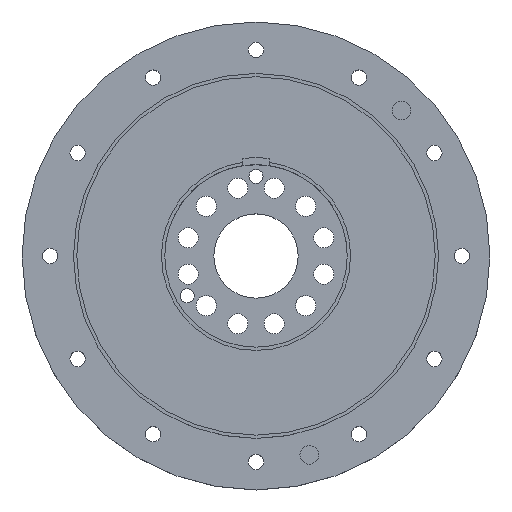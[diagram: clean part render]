
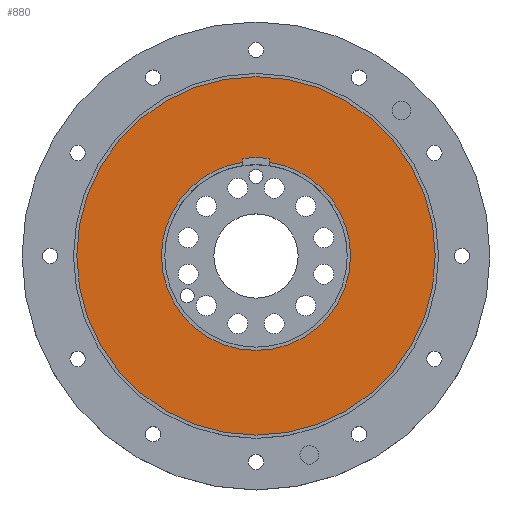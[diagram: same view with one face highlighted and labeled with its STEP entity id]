
A CAD part, top view. The second image highlights one B-rep face of the part: STEP entity #880.
In plain terms, the highlighted planar face has unit normal (0, 0, 1).
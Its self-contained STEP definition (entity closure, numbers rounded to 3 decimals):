
#13 = ORIENTED_EDGE ( 'NONE', *, *, #1020, .T. ) ;
#54 = LINE ( 'NONE', #3075, #760 ) ;
#62 = VERTEX_POINT ( 'NONE', #1428 ) ;
#71 = EDGE_CURVE ( 'NONE', #2795, #1116, #259, .T. ) ;
#82 = VECTOR ( 'NONE', #3006, 1000. ) ;
#83 = ORIENTED_EDGE ( 'NONE', *, *, #1375, .F. ) ;
#127 = DIRECTION ( 'NONE',  ( 0., 0., 1. ) ) ;
#134 = AXIS2_PLACEMENT_3D ( 'NONE', #321, #1181, #2298 ) ;
#209 = CARTESIAN_POINT ( 'NONE',  ( 38.3, 0., 15.3 ) ) ;
#225 = CARTESIAN_POINT ( 'NONE',  ( -2.8, 20.005, 15.3 ) ) ;
#259 = CIRCLE ( 'NONE', #1455, 38.3 ) ;
#321 = CARTESIAN_POINT ( 'NONE',  ( 0., 0., 15.3 ) ) ;
#462 = ORIENTED_EDGE ( 'NONE', *, *, #3199, .F. ) ;
#480 = CIRCLE ( 'NONE', #2143, 20.2 ) ;
#575 = DIRECTION ( 'NONE',  ( 0., 0., 1. ) ) ;
#590 = CARTESIAN_POINT ( 'NONE',  ( -2.8, 20.812, 15.3 ) ) ;
#675 = EDGE_CURVE ( 'NONE', #62, #3171, #2425, .T. ) ;
#707 = VERTEX_POINT ( 'NONE', #225 ) ;
#760 = VECTOR ( 'NONE', #1174, 1000. ) ;
#860 = VERTEX_POINT ( 'NONE', #590 ) ;
#880 = ADVANCED_FACE ( 'NONE', ( #1720, #2863 ), #1747, .T. ) ;
#1020 = EDGE_CURVE ( 'NONE', #1116, #2795, #3508, .T. ) ;
#1032 = AXIS2_PLACEMENT_3D ( 'NONE', #1401, #575, #1147 ) ;
#1035 = CARTESIAN_POINT ( 'NONE',  ( 0., 0., 15.3 ) ) ;
#1051 = ORIENTED_EDGE ( 'NONE', *, *, #2122, .T. ) ;
#1109 = ORIENTED_EDGE ( 'NONE', *, *, #675, .F. ) ;
#1116 = VERTEX_POINT ( 'NONE', #1480 ) ;
#1147 = DIRECTION ( 'NONE',  ( 1., 0., 0. ) ) ;
#1156 = AXIS2_PLACEMENT_3D ( 'NONE', #2290, #2312, #3425 ) ;
#1174 = DIRECTION ( 'NONE',  ( 0., 1., 0. ) ) ;
#1181 = DIRECTION ( 'NONE',  ( 0., 0., 1. ) ) ;
#1204 = EDGE_CURVE ( 'NONE', #3171, #1732, #480, .T. ) ;
#1375 = EDGE_CURVE ( 'NONE', #1732, #1780, #2667, .T. ) ;
#1398 = ORIENTED_EDGE ( 'NONE', *, *, #1660, .F. ) ;
#1401 = CARTESIAN_POINT ( 'NONE',  ( 0., 0., 15.3 ) ) ;
#1428 = CARTESIAN_POINT ( 'NONE',  ( -20.2, 0., 15.3 ) ) ;
#1455 = AXIS2_PLACEMENT_3D ( 'NONE', #3151, #3482, #2612 ) ;
#1480 = CARTESIAN_POINT ( 'NONE',  ( -38.3, 0., 15.3 ) ) ;
#1660 = EDGE_CURVE ( 'NONE', #707, #62, #2250, .T. ) ;
#1720 = FACE_OUTER_BOUND ( 'NONE', #2019, .T. ) ;
#1732 = VERTEX_POINT ( 'NONE', #3358 ) ;
#1747 = PLANE ( 'NONE',  #134 ) ;
#1752 = ORIENTED_EDGE ( 'NONE', *, *, #71, .T. ) ;
#1780 = VERTEX_POINT ( 'NONE', #2451 ) ;
#1825 = DIRECTION ( 'NONE',  ( 1., 0., 0. ) ) ;
#1920 = CARTESIAN_POINT ( 'NONE',  ( 0., 0., 15.3 ) ) ;
#2019 = EDGE_LOOP ( 'NONE', ( #1752, #13 ) ) ;
#2122 = EDGE_CURVE ( 'NONE', #707, #860, #54, .T. ) ;
#2143 = AXIS2_PLACEMENT_3D ( 'NONE', #1920, #2839, #3067 ) ;
#2250 = CIRCLE ( 'NONE', #2386, 20.2 ) ;
#2263 = CIRCLE ( 'NONE', #1156, 21. ) ;
#2290 = CARTESIAN_POINT ( 'NONE',  ( 0., 0., 15.3 ) ) ;
#2298 = DIRECTION ( 'NONE',  ( 1., 0., 0. ) ) ;
#2312 = DIRECTION ( 'NONE',  ( 0., 0., 1. ) ) ;
#2386 = AXIS2_PLACEMENT_3D ( 'NONE', #3513, #127, #1825 ) ;
#2425 = CIRCLE ( 'NONE', #3368, 20.2 ) ;
#2451 = CARTESIAN_POINT ( 'NONE',  ( 2.8, 20.812, 15.3 ) ) ;
#2612 = DIRECTION ( 'NONE',  ( 1., 0., 0. ) ) ;
#2641 = ORIENTED_EDGE ( 'NONE', *, *, #1204, .F. ) ;
#2667 = LINE ( 'NONE', #3553, #82 ) ;
#2795 = VERTEX_POINT ( 'NONE', #209 ) ;
#2839 = DIRECTION ( 'NONE',  ( 0., 0., 1. ) ) ;
#2863 = FACE_BOUND ( 'NONE', #3398, .T. ) ;
#3006 = DIRECTION ( 'NONE',  ( 0., 1., 0. ) ) ;
#3029 = DIRECTION ( 'NONE',  ( 1., 0., 0. ) ) ;
#3067 = DIRECTION ( 'NONE',  ( 1., 0., 0. ) ) ;
#3075 = CARTESIAN_POINT ( 'NONE',  ( -2.8, 0., 15.3 ) ) ;
#3085 = DIRECTION ( 'NONE',  ( 0., 0., 1. ) ) ;
#3151 = CARTESIAN_POINT ( 'NONE',  ( 0., 0., 15.3 ) ) ;
#3171 = VERTEX_POINT ( 'NONE', #3211 ) ;
#3199 = EDGE_CURVE ( 'NONE', #1780, #860, #2263, .T. ) ;
#3211 = CARTESIAN_POINT ( 'NONE',  ( 20.2, 0., 15.3 ) ) ;
#3358 = CARTESIAN_POINT ( 'NONE',  ( 2.8, 20.005, 15.3 ) ) ;
#3368 = AXIS2_PLACEMENT_3D ( 'NONE', #1035, #3085, #3029 ) ;
#3398 = EDGE_LOOP ( 'NONE', ( #462, #83, #2641, #1109, #1398, #1051 ) ) ;
#3425 = DIRECTION ( 'NONE',  ( 1., 0., 0. ) ) ;
#3482 = DIRECTION ( 'NONE',  ( 0., 0., 1. ) ) ;
#3508 = CIRCLE ( 'NONE', #1032, 38.3 ) ;
#3513 = CARTESIAN_POINT ( 'NONE',  ( 0., 0., 15.3 ) ) ;
#3553 = CARTESIAN_POINT ( 'NONE',  ( 2.8, 0., 15.3 ) ) ;
